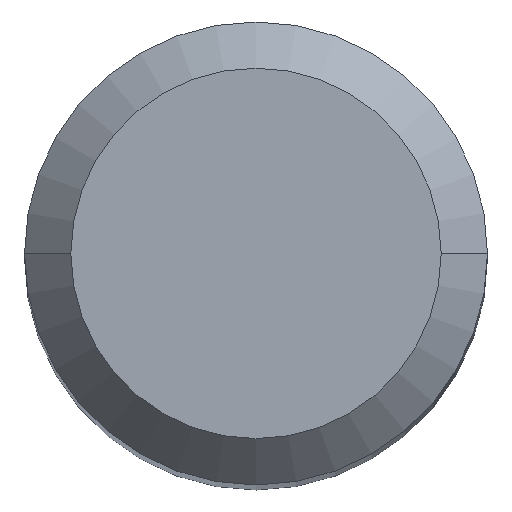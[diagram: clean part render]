
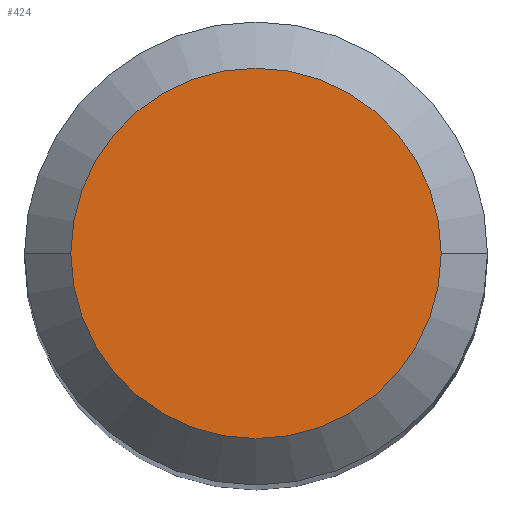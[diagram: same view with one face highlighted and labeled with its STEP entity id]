
A CAD part, top view. The second image highlights one B-rep face of the part: STEP entity #424.
In plain terms, the highlighted planar face has unit normal (0, 0, 1).
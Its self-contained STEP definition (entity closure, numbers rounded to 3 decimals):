
#50 = FACE_OUTER_BOUND ( 'NONE', #619, .T. ) ;
#115 = DIRECTION ( 'NONE',  ( 0., 0., -1. ) ) ;
#125 = CARTESIAN_POINT ( 'NONE',  ( 0., 0., 0. ) ) ;
#130 = DIRECTION ( 'NONE',  ( -1., 0., 0. ) ) ;
#138 = ORIENTED_EDGE ( 'NONE', *, *, #488, .F. ) ;
#152 = PLANE ( 'NONE',  #465 ) ;
#162 = CARTESIAN_POINT ( 'NONE',  ( 0., 0., 0. ) ) ;
#189 = ORIENTED_EDGE ( 'NONE', *, *, #199, .F. ) ;
#198 = DIRECTION ( 'NONE',  ( 0., 0., 1. ) ) ;
#199 = EDGE_CURVE ( 'NONE', #393, #266, #608, .T. ) ;
#246 = CARTESIAN_POINT ( 'NONE',  ( -2.4, 0., 0. ) ) ;
#266 = VERTEX_POINT ( 'NONE', #373 ) ;
#273 = CIRCLE ( 'NONE', #446, 2.4 ) ;
#373 = CARTESIAN_POINT ( 'NONE',  ( 2.4, 0., 0. ) ) ;
#391 = CARTESIAN_POINT ( 'NONE',  ( 0., 2.4, 0. ) ) ;
#393 = VERTEX_POINT ( 'NONE', #246 ) ;
#415 = DIRECTION ( 'NONE',  ( 0., 0., -1. ) ) ;
#424 = ADVANCED_FACE ( 'NONE', ( #50 ), #152, .T. ) ;
#446 = AXIS2_PLACEMENT_3D ( 'NONE', #162, #115, #552 ) ;
#456 = AXIS2_PLACEMENT_3D ( 'NONE', #125, #415, #130 ) ;
#465 = AXIS2_PLACEMENT_3D ( 'NONE', #391, #198, #536 ) ;
#488 = EDGE_CURVE ( 'NONE', #266, #393, #273, .T. ) ;
#536 = DIRECTION ( 'NONE',  ( 1., 0., 0. ) ) ;
#552 = DIRECTION ( 'NONE',  ( -1., 0., 0. ) ) ;
#608 = CIRCLE ( 'NONE', #456, 2.4 ) ;
#619 = EDGE_LOOP ( 'NONE', ( #189, #138 ) ) ;
